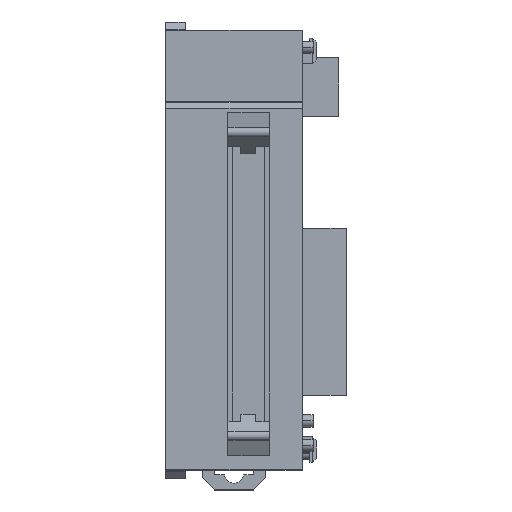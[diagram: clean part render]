
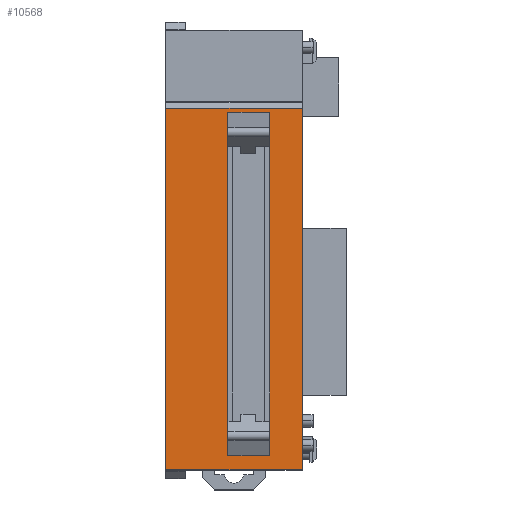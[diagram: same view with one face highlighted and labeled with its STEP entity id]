
A CAD part, top view. The second image highlights one B-rep face of the part: STEP entity #10568.
In plain terms, the highlighted planar face has unit normal (0, 0, 1).
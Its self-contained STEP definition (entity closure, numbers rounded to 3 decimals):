
#10402 = VERTEX_POINT ( 'NONE', #17725 ) ;
#10428 = EDGE_CURVE ( 'NONE', #10438, #10402, #17789, .T. ) ;
#10438 = VERTEX_POINT ( 'NONE', #17830 ) ;
#10472 = ORIENTED_EDGE ( 'NONE', *, *, #10555, .T. ) ;
#10515 = EDGE_CURVE ( 'NONE', #10556, #10560, #17968, .T. ) ;
#10517 = ORIENTED_EDGE ( 'NONE', *, *, #10515, .T. ) ;
#10518 = VERTEX_POINT ( 'NONE', #17904 ) ;
#10527 = ORIENTED_EDGE ( 'NONE', *, *, #10428, .T. ) ;
#10532 = ORIENTED_EDGE ( 'NONE', *, *, #10557, .F. ) ;
#10535 = VERTEX_POINT ( 'NONE', #17940 ) ;
#10537 = ORIENTED_EDGE ( 'NONE', *, *, #10551, .T. ) ;
#10538 = EDGE_CURVE ( 'NONE', #10518, #10535, #17959, .T. ) ;
#10541 = EDGE_LOOP ( 'NONE', ( #10517, #10537, #10559, #10532 ) ) ;
#10550 = EDGE_LOOP ( 'NONE', ( #10527, #10564, #10472, #10561 ) ) ;
#10551 = EDGE_CURVE ( 'NONE', #10560, #10535, #17980, .T. ) ;
#10553 = VERTEX_POINT ( 'NONE', #17973 ) ;
#10554 = EDGE_CURVE ( 'NONE', #10563, #10438, #18028, .T. ) ;
#10555 = EDGE_CURVE ( 'NONE', #10553, #10563, #17978, .T. ) ;
#10556 = VERTEX_POINT ( 'NONE', #18024 ) ;
#10557 = EDGE_CURVE ( 'NONE', #10556, #10518, #18019, .T. ) ;
#10559 = ORIENTED_EDGE ( 'NONE', *, *, #10538, .F. ) ;
#10560 = VERTEX_POINT ( 'NONE', #18012 ) ;
#10561 = ORIENTED_EDGE ( 'NONE', *, *, #10554, .T. ) ;
#10563 = VERTEX_POINT ( 'NONE', #18020 ) ;
#10564 = ORIENTED_EDGE ( 'NONE', *, *, #10569, .T. ) ;
#10568 = ADVANCED_FACE ( 'NONE', ( #18006, #18009 ), #17979, .T. ) ;
#10569 = EDGE_CURVE ( 'NONE', #10402, #10553, #18000, .T. ) ;
#11052 = DIRECTION ( 'NONE',  ( 0., -1., 0. ) ) ;
#15097 = VECTOR ( 'NONE', #11052, 1000. ) ;
#17725 = CARTESIAN_POINT ( 'NONE',  ( 14., 29., 80. ) ) ;
#17779 = DIRECTION ( 'NONE',  ( 0., 1., 0. ) ) ;
#17780 = VECTOR ( 'NONE', #17779, 1000. ) ;
#17788 = CARTESIAN_POINT ( 'NONE',  ( 14., -45., 80. ) ) ;
#17789 = LINE ( 'NONE', #17788, #17780 ) ;
#17830 = CARTESIAN_POINT ( 'NONE',  ( 14., -45., 80. ) ) ;
#17904 = CARTESIAN_POINT ( 'NONE',  ( -1.3, 28.15, 80. ) ) ;
#17940 = CARTESIAN_POINT ( 'NONE',  ( -1.3, -42.15, 80. ) ) ;
#17958 = CARTESIAN_POINT ( 'NONE',  ( -1.3, 45., 80. ) ) ;
#17959 = LINE ( 'NONE', #17958, #15097 ) ;
#17960 = DIRECTION ( 'NONE',  ( 0., -1., 0. ) ) ;
#17961 = VECTOR ( 'NONE', #17960, 1000. ) ;
#17962 = CARTESIAN_POINT ( 'NONE',  ( 7.3, 45., 80. ) ) ;
#17968 = LINE ( 'NONE', #17962, #17961 ) ;
#17969 = DIRECTION ( 'NONE',  ( -1., 0., 0. ) ) ;
#17970 = VECTOR ( 'NONE', #17969, 1000. ) ;
#17971 = CARTESIAN_POINT ( 'NONE',  ( -14., -42.15, 80. ) ) ;
#17972 = CARTESIAN_POINT ( 'NONE',  ( -14., -45., 80. ) ) ;
#17973 = CARTESIAN_POINT ( 'NONE',  ( -14., 29., 80. ) ) ;
#17978 = LINE ( 'NONE', #17972, #18023 ) ;
#17979 = PLANE ( 'NONE',  #18001 ) ;
#17980 = LINE ( 'NONE', #17971, #17970 ) ;
#17997 = DIRECTION ( 'NONE',  ( 1., 0., 0. ) ) ;
#17999 = CARTESIAN_POINT ( 'NONE',  ( -14., 29., 80. ) ) ;
#18000 = LINE ( 'NONE', #17999, #18060 ) ;
#18001 = AXIS2_PLACEMENT_3D ( 'NONE', #18003, #18022, #17997 ) ;
#18003 = CARTESIAN_POINT ( 'NONE',  ( -14., 45., 80. ) ) ;
#18006 = FACE_OUTER_BOUND ( 'NONE', #10550, .T. ) ;
#18009 = FACE_BOUND ( 'NONE', #10541, .T. ) ;
#18012 = CARTESIAN_POINT ( 'NONE',  ( 7.3, -42.15, 80. ) ) ;
#18015 = DIRECTION ( 'NONE',  ( -1., 0., 0. ) ) ;
#18016 = VECTOR ( 'NONE', #18015, 1000. ) ;
#18018 = CARTESIAN_POINT ( 'NONE',  ( -14., 28.15, 80. ) ) ;
#18019 = LINE ( 'NONE', #18018, #18016 ) ;
#18020 = CARTESIAN_POINT ( 'NONE',  ( -14., -45., 80. ) ) ;
#18021 = DIRECTION ( 'NONE',  ( 0., -1., 0. ) ) ;
#18022 = DIRECTION ( 'NONE',  ( 0., 0., 1. ) ) ;
#18023 = VECTOR ( 'NONE', #18021, 1000. ) ;
#18024 = CARTESIAN_POINT ( 'NONE',  ( 7.3, 28.15, 80. ) ) ;
#18025 = DIRECTION ( 'NONE',  ( 1., 0., 0. ) ) ;
#18026 = VECTOR ( 'NONE', #18025, 1000. ) ;
#18027 = CARTESIAN_POINT ( 'NONE',  ( 14., -45., 80. ) ) ;
#18028 = LINE ( 'NONE', #18027, #18026 ) ;
#18059 = DIRECTION ( 'NONE',  ( -1., 0., 0. ) ) ;
#18060 = VECTOR ( 'NONE', #18059, 1000. ) ;
